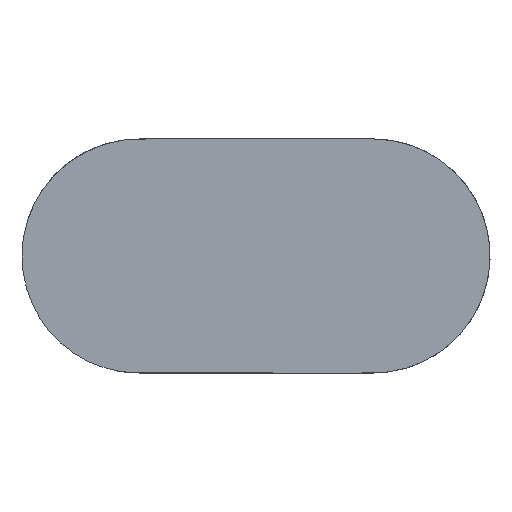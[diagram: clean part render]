
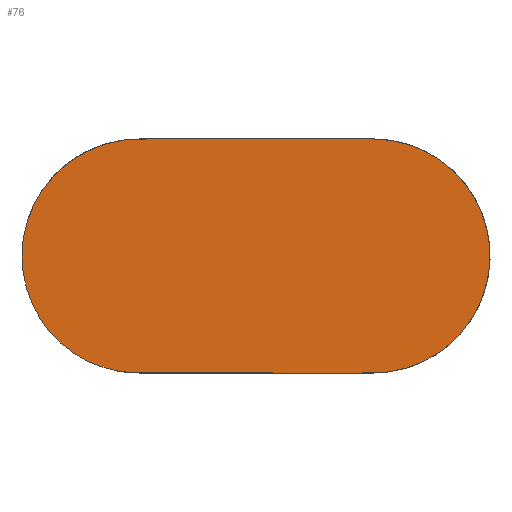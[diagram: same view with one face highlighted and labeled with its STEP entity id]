
A CAD part, top view. The second image highlights one B-rep face of the part: STEP entity #76.
In plain terms, the highlighted planar face has unit normal (0, 0, 1).
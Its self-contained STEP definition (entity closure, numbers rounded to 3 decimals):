
#76=ADVANCED_FACE('',(#380),#2722,.T.);
#380=FACE_OUTER_BOUND('',#592,.T.);
#592=EDGE_LOOP('',(#974));
#974=ORIENTED_EDGE('',*,*,#1849,.T.);
#1849=EDGE_CURVE('',#2296,#2296,#3180,.T.);
#2296=VERTEX_POINT('',#4487);
#2722=PLANE('',#3300);
#3180=B_SPLINE_CURVE_WITH_KNOTS('',3,(#4488,#4489,#4490,#4491,#4492,#4493,
#4494,#4495,#4496,#4497,#4498,#4499,#4500,#4501,#4502,#4503,#4504,#4505,
#4506,#4507,#4508,#4509,#4510,#4511,#4512,#4513,#4514,#4515,#4516,#4517,
#4518,#4519,#4520,#4521,#4522,#4523,#4524,#4525,#4526,#4527,#4528,#4529,
#4530,#4531,#4532,#4533,#4534,#4535,#4536,#4537,#4538,#4539,#4540,#4541,
#4542,#4543,#4544,#4545,#4546,#4547,#4548,#4549,#4550,#4551,#4552,#4553,
#4554,#4555,#4556,#4557,#4558,#4559,#4560,#4561,#4562,#4563,#4564),
 .UNSPECIFIED.,.T.,.F.,(4,1,1,1,1,1,1,1,1,1,1,1,1,1,1,1,3,3,1,1,1,1,1,1,
1,1,1,1,1,1,1,1,1,1,1,1,1,1,1,1,1,1,1,1,1,1,1,1,1,3,3,1,1,1,1,1,1,1,1,1,
1,1,1,1,1,1,4),(589.048,622.789,657.666,693.58,
730.407,767.998,806.182,844.774,883.572,
922.369,960.961,999.145,1036.736,1073.563,
1109.477,1144.355,1178.095,1928.095,1961.836,
1996.714,2032.628,2069.455,2107.045,2145.23,
2183.821,2222.619,2261.417,2300.008,2338.193,
2375.784,2412.61,2448.525,2483.402,2517.143,
2550.884,2585.761,2621.676,2658.503,2696.093,
2734.278,2772.869,2811.667,2850.465,2889.056,
2927.241,2964.831,3001.658,3037.572,3072.45,
3106.191,3856.191,3889.932,3924.809,3960.723,
3997.55,4035.141,4073.326,4111.917,4150.715,
4189.512,4228.104,4266.288,4303.879,4340.706,
4376.62,4411.498,4445.238),.UNSPECIFIED.);
#3300=AXIS2_PLACEMENT_3D('',#4486,#3361,$);
#3361=DIRECTION('',(0.,0.,1.));
#4486=CARTESIAN_POINT('',(-407.273,-187.001,739.451));
#4487=CARTESIAN_POINT('',(-392.272,195.499,739.451));
#4488=CARTESIAN_POINT('',(-392.272,195.499,739.451));
#4489=CARTESIAN_POINT('',(-392.273,184.253,739.451));
#4490=CARTESIAN_POINT('',(-391.243,161.378,739.451));
#4491=CARTESIAN_POINT('',(-386.497,126.822,739.451));
#4492=CARTESIAN_POINT('',(-378.279,91.861,739.451));
#4493=CARTESIAN_POINT('',(-366.422,57.,739.451));
#4494=CARTESIAN_POINT('',(-350.855,22.794,739.451));
#4495=CARTESIAN_POINT('',(-331.621,-10.177,739.451));
#4496=CARTESIAN_POINT('',(-308.879,-41.336,739.451));
#4497=CARTESIAN_POINT('',(-282.911,-70.139,739.451));
#4498=CARTESIAN_POINT('',(-254.107,-96.108,739.451));
#4499=CARTESIAN_POINT('',(-222.949,-118.849,739.451));
#4500=CARTESIAN_POINT('',(-189.977,-138.084,739.451));
#4501=CARTESIAN_POINT('',(-155.771,-153.651,739.451));
#4502=CARTESIAN_POINT('',(-120.911,-165.508,739.451));
#4503=CARTESIAN_POINT('',(-85.95,-173.726,739.451));
#4504=CARTESIAN_POINT('',(-51.393,-178.471,739.451));
#4505=CARTESIAN_POINT('',(-28.519,-179.501,739.451));
#4506=CARTESIAN_POINT('',(-17.272,-179.501,739.451));
#4507=CARTESIAN_POINT('',(232.728,-179.501,739.451));
#4508=CARTESIAN_POINT('',(482.728,-179.501,739.451));
#4509=CARTESIAN_POINT('',(732.728,-179.501,739.451));
#4510=CARTESIAN_POINT('',(743.974,-179.501,739.451));
#4511=CARTESIAN_POINT('',(766.848,-178.471,739.451));
#4512=CARTESIAN_POINT('',(801.404,-173.726,739.451));
#4513=CARTESIAN_POINT('',(836.368,-165.507,739.451));
#4514=CARTESIAN_POINT('',(871.226,-153.651,739.451));
#4515=CARTESIAN_POINT('',(905.431,-138.085,739.451));
#4516=CARTESIAN_POINT('',(938.403,-118.849,739.451));
#4517=CARTESIAN_POINT('',(969.562,-96.108,739.451));
#4518=CARTESIAN_POINT('',(998.366,-70.14,739.451));
#4519=CARTESIAN_POINT('',(1024.333,-41.337,739.451));
#4520=CARTESIAN_POINT('',(1047.075,-10.178,739.451));
#4521=CARTESIAN_POINT('',(1066.311,22.796,739.451));
#4522=CARTESIAN_POINT('',(1081.876,56.997,739.451));
#4523=CARTESIAN_POINT('',(1093.735,91.863,739.451));
#4524=CARTESIAN_POINT('',(1101.952,126.819,739.451));
#4525=CARTESIAN_POINT('',(1106.698,161.381,739.451));
#4526=CARTESIAN_POINT('',(1108.234,195.498,739.451));
#4527=CARTESIAN_POINT('',(1106.698,229.619,739.451));
#4528=CARTESIAN_POINT('',(1101.952,264.175,739.451));
#4529=CARTESIAN_POINT('',(1093.734,299.139,739.451));
#4530=CARTESIAN_POINT('',(1081.877,333.997,739.451));
#4531=CARTESIAN_POINT('',(1066.311,368.202,739.451));
#4532=CARTESIAN_POINT('',(1047.075,401.175,739.451));
#4533=CARTESIAN_POINT('',(1024.334,432.333,739.451));
#4534=CARTESIAN_POINT('',(998.366,461.137,739.451));
#4535=CARTESIAN_POINT('',(969.563,487.104,739.451));
#4536=CARTESIAN_POINT('',(938.405,509.846,739.451));
#4537=CARTESIAN_POINT('',(905.43,529.083,739.451));
#4538=CARTESIAN_POINT('',(871.229,544.647,739.451));
#4539=CARTESIAN_POINT('',(836.363,556.506,739.451));
#4540=CARTESIAN_POINT('',(801.408,564.723,739.451));
#4541=CARTESIAN_POINT('',(766.844,569.469,739.451));
#4542=CARTESIAN_POINT('',(743.977,570.499,739.451));
#4543=CARTESIAN_POINT('',(732.728,570.499,739.451));
#4544=CARTESIAN_POINT('',(482.728,570.499,739.451));
#4545=CARTESIAN_POINT('',(232.728,570.499,739.451));
#4546=CARTESIAN_POINT('',(-17.272,570.499,739.451));
#4547=CARTESIAN_POINT('',(-28.519,570.499,739.451));
#4548=CARTESIAN_POINT('',(-51.393,569.469,739.451));
#4549=CARTESIAN_POINT('',(-85.949,564.723,739.451));
#4550=CARTESIAN_POINT('',(-120.911,556.505,739.451));
#4551=CARTESIAN_POINT('',(-155.771,544.648,739.451));
#4552=CARTESIAN_POINT('',(-189.978,529.081,739.451));
#4553=CARTESIAN_POINT('',(-222.947,509.847,739.451));
#4554=CARTESIAN_POINT('',(-254.108,487.104,739.451));
#4555=CARTESIAN_POINT('',(-282.91,461.138,739.451));
#4556=CARTESIAN_POINT('',(-308.879,432.333,739.451));
#4557=CARTESIAN_POINT('',(-331.62,401.175,739.451));
#4558=CARTESIAN_POINT('',(-350.855,368.203,739.451));
#4559=CARTESIAN_POINT('',(-366.422,333.998,739.451));
#4560=CARTESIAN_POINT('',(-378.279,299.138,739.451));
#4561=CARTESIAN_POINT('',(-386.497,264.176,739.451));
#4562=CARTESIAN_POINT('',(-391.243,229.62,739.451));
#4563=CARTESIAN_POINT('',(-392.273,206.745,739.451));
#4564=CARTESIAN_POINT('',(-392.272,195.499,739.451));
